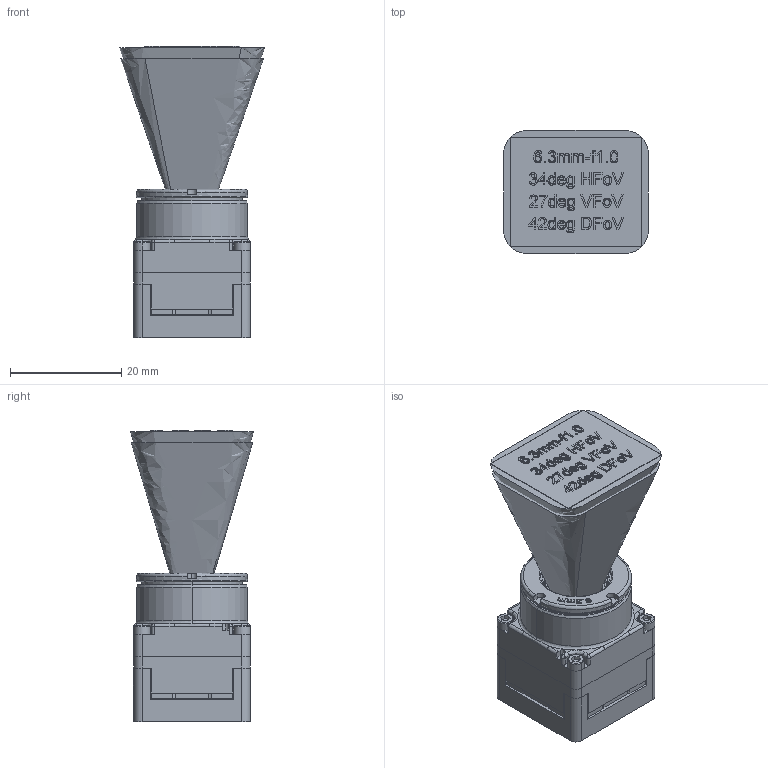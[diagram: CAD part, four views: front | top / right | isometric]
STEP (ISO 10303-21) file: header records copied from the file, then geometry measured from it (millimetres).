
FILE_DESCRIPTION (( 'STEP AP214' ), '1' );
FILE_NAME ('Boson 320, 6.3mm-f1.0, 34deg HFoV 9Hz.STEP', '2017-10-09T20:46:12', ( '' ), ( '' ), 'SwSTEP 2.0', 'SolidWorks 2017', '' );
FILE_SCHEMA (( 'AUTOMOTIVE_DESIGN' ));
Length unit declared in the file: millimetre
Products named in the file (9): Label, Boson Camera 9Hz; Optical Area 6.3mm-f1.0, Boson 320; Lens Assy, 6.3mm-f1.0; socket head cap screw_M-1.6 x 0.35x10mm L; Lens Holder, M18x0.5-Boson 320; PCBA Boson Main; Boson Frame, Main Board; Sensor Module, Boson 320; Boson 320, 6.3mm-f1.0, 34deg HFoV 9Hz
Assembly tree (11 placements, depth 2):
  Boson 320, 6.3mm-f1.0, 34deg HFoV 9Hz
    Sensor Module, Boson 320
    Boson Frame, Main Board
    PCBA Boson Main
    Lens Holder, M18x0.5-Boson 320
    socket head cap screw_M-1.6 x 0.35x10mm L  x4
    Lens Assy, 6.3mm-f1.0
    Optical Area 6.3mm-f1.0, Boson 320
    Label, Boson Camera 9Hz
Bounding box: 26.1 x 22.16 x 52.44 mm (x, y, z)
Volume: 17916.8 mm3; surface area: 13387.3 mm2
Topology: 15 solids, 15 shells, 3394 faces, 9259 edges, 6090 vertices
Faces by surface type: plane 2153, cylinder 652, bspline 456, cone 79, torus 50, sphere 4
Entity records: 162126 total; most frequent: CARTESIAN_POINT 42994, ORIENTED_EDGE 18144, DIRECTION 15342, EDGE_CURVE 9072, LINE 6660, VECTOR 6660, VERTEX_POINT 5991, AXIS2_PLACEMENT_3D 4341
